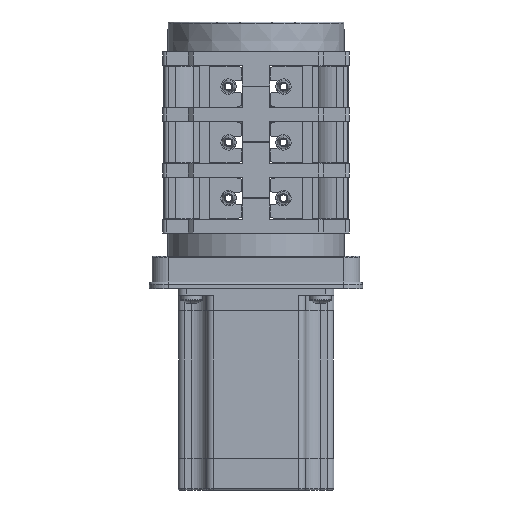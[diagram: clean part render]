
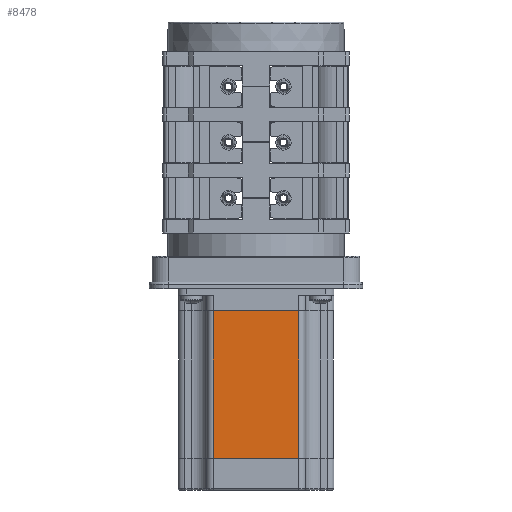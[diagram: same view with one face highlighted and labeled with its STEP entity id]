
A CAD part, front view. The second image highlights one B-rep face of the part: STEP entity #8478.
In plain terms, the highlighted planar face has unit normal (0, -1, 0).
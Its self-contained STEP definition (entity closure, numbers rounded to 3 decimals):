
#324 = CARTESIAN_POINT ( 'NONE',  ( -15.57, -28.3, -95.1 ) ) ;
#2357 = ORIENTED_EDGE ( 'NONE', *, *, #28355, .F. ) ;
#2378 = DIRECTION ( 'NONE',  ( -1., 0., 0. ) ) ;
#5525 = VERTEX_POINT ( 'NONE', #21842 ) ;
#6320 = EDGE_CURVE ( 'NONE', #13405, #41855, #19907, .T. ) ;
#8160 = CARTESIAN_POINT ( 'NONE',  ( -15.57, -28.3, -41.1 ) ) ;
#8478 = ADVANCED_FACE ( 'NONE', ( #46734 ), #18649, .T. ) ;
#8576 = EDGE_CURVE ( 'NONE', #11944, #13405, #33172, .T. ) ;
#8969 = CARTESIAN_POINT ( 'NONE',  ( 15.57, -28.3, -41.1 ) ) ;
#10216 = ORIENTED_EDGE ( 'NONE', *, *, #8576, .T. ) ;
#10941 = EDGE_LOOP ( 'NONE', ( #10216, #47591, #19099, #2357 ) ) ;
#11944 = VERTEX_POINT ( 'NONE', #8969 ) ;
#12045 = VECTOR ( 'NONE', #2378, 1000. ) ;
#12432 = DIRECTION ( 'NONE',  ( 0., 0., -1. ) ) ;
#12725 = CARTESIAN_POINT ( 'NONE',  ( -15.57, -28.3, 50.01 ) ) ;
#13405 = VERTEX_POINT ( 'NONE', #8160 ) ;
#13839 = DIRECTION ( 'NONE',  ( -1., 0., 0. ) ) ;
#15027 = DIRECTION ( 'NONE',  ( 0., -1., 0. ) ) ;
#17986 = LINE ( 'NONE', #46256, #37987 ) ;
#18649 = PLANE ( 'NONE',  #20223 ) ;
#19099 = ORIENTED_EDGE ( 'NONE', *, *, #33059, .F. ) ;
#19907 = LINE ( 'NONE', #12725, #21055 ) ;
#20223 = AXIS2_PLACEMENT_3D ( 'NONE', #29994, #15027, #41287 ) ;
#20566 = VECTOR ( 'NONE', #13839, 1000. ) ;
#21055 = VECTOR ( 'NONE', #35053, 1000. ) ;
#21842 = CARTESIAN_POINT ( 'NONE',  ( 15.57, -28.3, -95.1 ) ) ;
#24846 = CARTESIAN_POINT ( 'NONE',  ( 15.57, -28.3, -95.1 ) ) ;
#28355 = EDGE_CURVE ( 'NONE', #11944, #5525, #17986, .T. ) ;
#29994 = CARTESIAN_POINT ( 'NONE',  ( 15.57, -28.3, 50.01 ) ) ;
#30549 = LINE ( 'NONE', #24846, #20566 ) ;
#33059 = EDGE_CURVE ( 'NONE', #5525, #41855, #30549, .T. ) ;
#33172 = LINE ( 'NONE', #47379, #12045 ) ;
#35053 = DIRECTION ( 'NONE',  ( 0., 0., -1. ) ) ;
#37987 = VECTOR ( 'NONE', #12432, 1000. ) ;
#41287 = DIRECTION ( 'NONE',  ( 1., 0., 0. ) ) ;
#41855 = VERTEX_POINT ( 'NONE', #324 ) ;
#46256 = CARTESIAN_POINT ( 'NONE',  ( 15.57, -28.3, 50.01 ) ) ;
#46734 = FACE_OUTER_BOUND ( 'NONE', #10941, .T. ) ;
#47379 = CARTESIAN_POINT ( 'NONE',  ( 15.57, -28.3, -41.1 ) ) ;
#47591 = ORIENTED_EDGE ( 'NONE', *, *, #6320, .T. ) ;
